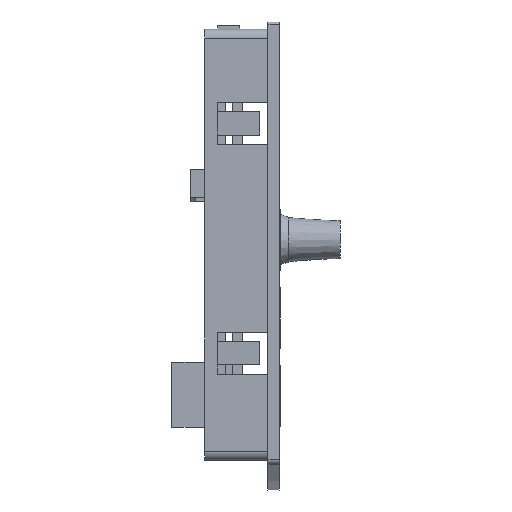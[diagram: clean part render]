
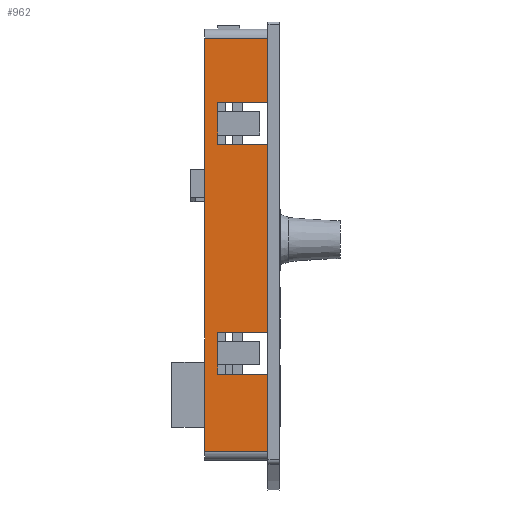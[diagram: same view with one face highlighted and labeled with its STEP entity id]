
A CAD part, front view. The second image highlights one B-rep face of the part: STEP entity #962.
In plain terms, the highlighted planar face has unit normal (0, -1, 0).
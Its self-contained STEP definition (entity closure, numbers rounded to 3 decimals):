
#962=ADVANCED_FACE('',(#4629),#4631,.T.);
#4629=FACE_BOUND('',#4630,.T.);
#4630=EDGE_LOOP('',(#7539,#7540,#7541,#7542,#7543,#7544,#7545,#7546,#7547,#7548,
#7549,#7550,#7551,#7552,#7553,#7554));
#4631=PLANE('',#4632);
#4632=AXIS2_PLACEMENT_3D('',#4633,#4634,#4635);
#4633=CARTESIAN_POINT('',(0.,-35.,-41.5));
#4634=DIRECTION('',(0.,-1.,0.));
#4635=DIRECTION('',(0.,0.,1.));
#7539=ORIENTED_EDGE('',*,*,#9612,.F.);
#7540=ORIENTED_EDGE('',*,*,#9613,.T.);
#7541=ORIENTED_EDGE('',*,*,#9614,.T.);
#7542=ORIENTED_EDGE('',*,*,#9587,.T.);
#7543=ORIENTED_EDGE('',*,*,#9615,.T.);
#7544=ORIENTED_EDGE('',*,*,#9616,.T.);
#7545=ORIENTED_EDGE('',*,*,#9617,.F.);
#7546=ORIENTED_EDGE('',*,*,#9618,.T.);
#7547=ORIENTED_EDGE('',*,*,#9619,.T.);
#7548=ORIENTED_EDGE('',*,*,#9556,.T.);
#7549=ORIENTED_EDGE('',*,*,#9611,.T.);
#7550=ORIENTED_EDGE('',*,*,#9620,.F.);
#7551=ORIENTED_EDGE('',*,*,#9621,.F.);
#7552=ORIENTED_EDGE('',*,*,#9591,.T.);
#7553=ORIENTED_EDGE('',*,*,#9622,.T.);
#7554=ORIENTED_EDGE('',*,*,#9623,.T.);
#9556=EDGE_CURVE('',#10902,#10899,#10903,.F.);
#9587=EDGE_CURVE('',#10964,#10962,#10965,.F.);
#9591=EDGE_CURVE('',#10972,#10970,#10973,.F.);
#9611=EDGE_CURVE('',#10899,#11009,#11011,.T.);
#9612=EDGE_CURVE('',#11012,#11013,#11014,.T.);
#9613=EDGE_CURVE('',#11012,#11015,#11016,.F.);
#9614=EDGE_CURVE('',#11015,#10964,#11017,.F.);
#9615=EDGE_CURVE('',#10962,#11018,#11019,.F.);
#9616=EDGE_CURVE('',#11018,#11020,#11021,.F.);
#9617=EDGE_CURVE('',#11022,#11020,#11023,.T.);
#9618=EDGE_CURVE('',#11022,#11024,#11025,.F.);
#9619=EDGE_CURVE('',#11024,#10902,#11026,.F.);
#9620=EDGE_CURVE('',#11027,#11009,#11028,.T.);
#9621=EDGE_CURVE('',#10972,#11027,#11029,.T.);
#9622=EDGE_CURVE('',#10970,#11030,#11031,.F.);
#9623=EDGE_CURVE('',#11030,#11013,#11032,.F.);
#10899=VERTEX_POINT('',#13443);
#10902=VERTEX_POINT('',#13449);
#10903=LINE('',#13450,#13451);
#10962=VERTEX_POINT('',#13575);
#10964=VERTEX_POINT('',#13579);
#10965=LINE('',#13580,#13581);
#10970=VERTEX_POINT('',#13591);
#10972=VERTEX_POINT('',#13595);
#10973=LINE('',#13596,#13597);
#11009=VERTEX_POINT('',#13671);
#11011=LINE('',#13676,#13677);
#11012=VERTEX_POINT('',#13679);
#11013=VERTEX_POINT('',#13680);
#11014=LINE('',#13681,#13682);
#11015=VERTEX_POINT('',#13684);
#11016=LINE('',#13685,#13686);
#11017=LINE('',#13688,#13689);
#11018=VERTEX_POINT('',#13691);
#11019=LINE('',#13692,#13693);
#11020=VERTEX_POINT('',#13695);
#11021=LINE('',#13696,#13697);
#11022=VERTEX_POINT('',#13699);
#11023=LINE('',#13700,#13701);
#11024=VERTEX_POINT('',#13703);
#11025=LINE('',#13704,#13705);
#11026=LINE('',#13707,#13708);
#11027=VERTEX_POINT('',#13710);
#11028=LINE('',#13711,#13712);
#11029=LINE('',#13714,#13715);
#11030=VERTEX_POINT('',#13717);
#11031=LINE('',#13718,#13719);
#11032=LINE('',#13721,#13722);
#13443=CARTESIAN_POINT('',(0.,-35.,46.5));
#13449=CARTESIAN_POINT('',(0.,-35.,32.9));
#13450=CARTESIAN_POINT('',(0.,-35.,46.5));
#13451=VECTOR('',#13452,1.);
#13452=DIRECTION('',(0.,0.,-1.));
#13575=CARTESIAN_POINT('',(0.,-35.,23.9));
#13579=CARTESIAN_POINT('',(0.,-35.,-16.1));
#13580=CARTESIAN_POINT('',(0.,-35.,23.9));
#13581=VECTOR('',#13582,1.);
#13582=DIRECTION('',(0.,0.,-1.));
#13591=CARTESIAN_POINT('',(0.,-35.,-25.1));
#13595=CARTESIAN_POINT('',(0.,-35.,-41.5));
#13596=CARTESIAN_POINT('',(0.,-35.,-25.1));
#13597=VECTOR('',#13598,1.);
#13598=DIRECTION('',(0.,0.,-1.));
#13671=CARTESIAN_POINT('',(-13.5,-35.,46.5));
#13676=CARTESIAN_POINT('',(0.,-35.,46.5));
#13677=VECTOR('',#13678,1.);
#13678=DIRECTION('',(-1.,0.,0.));
#13679=CARTESIAN_POINT('',(-10.7,-35.,-18.1));
#13680=CARTESIAN_POINT('',(-10.7,-35.,-23.1));
#13681=CARTESIAN_POINT('',(-10.7,-35.,-18.1));
#13682=VECTOR('',#13683,1.);
#13683=DIRECTION('',(0.,0.,-1.));
#13684=CARTESIAN_POINT('',(-10.7,-35.,-16.1));
#13685=CARTESIAN_POINT('',(-10.7,-35.,-16.1));
#13686=VECTOR('',#13687,1.);
#13687=DIRECTION('',(0.,0.,-1.));
#13688=CARTESIAN_POINT('',(0.,-35.,-16.1));
#13689=VECTOR('',#13690,1.);
#13690=DIRECTION('',(-1.,0.,0.));
#13691=CARTESIAN_POINT('',(-10.7,-35.,23.9));
#13692=CARTESIAN_POINT('',(-10.7,-35.,23.9));
#13693=VECTOR('',#13694,1.);
#13694=DIRECTION('',(1.,0.,0.));
#13695=CARTESIAN_POINT('',(-10.7,-35.,25.9));
#13696=CARTESIAN_POINT('',(-10.7,-35.,25.9));
#13697=VECTOR('',#13698,1.);
#13698=DIRECTION('',(0.,0.,-1.));
#13699=CARTESIAN_POINT('',(-10.7,-35.,30.9));
#13700=CARTESIAN_POINT('',(-10.7,-35.,30.9));
#13701=VECTOR('',#13702,1.);
#13702=DIRECTION('',(0.,0.,-1.));
#13703=CARTESIAN_POINT('',(-10.7,-35.,32.9));
#13704=CARTESIAN_POINT('',(-10.7,-35.,32.9));
#13705=VECTOR('',#13706,1.);
#13706=DIRECTION('',(0.,0.,-1.));
#13707=CARTESIAN_POINT('',(0.,-35.,32.9));
#13708=VECTOR('',#13709,1.);
#13709=DIRECTION('',(-1.,0.,0.));
#13710=CARTESIAN_POINT('',(-13.5,-35.,-41.5));
#13711=CARTESIAN_POINT('',(-13.5,-35.,-41.5));
#13712=VECTOR('',#13713,1.);
#13713=DIRECTION('',(0.,0.,1.));
#13714=CARTESIAN_POINT('',(0.,-35.,-41.5));
#13715=VECTOR('',#13716,1.);
#13716=DIRECTION('',(-1.,0.,0.));
#13717=CARTESIAN_POINT('',(-10.7,-35.,-25.1));
#13718=CARTESIAN_POINT('',(-10.7,-35.,-25.1));
#13719=VECTOR('',#13720,1.);
#13720=DIRECTION('',(1.,0.,0.));
#13721=CARTESIAN_POINT('',(-10.7,-35.,-23.1));
#13722=VECTOR('',#13723,1.);
#13723=DIRECTION('',(0.,0.,-1.));
